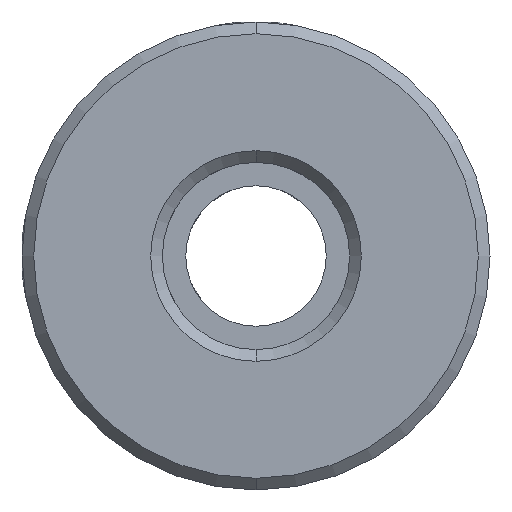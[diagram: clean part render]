
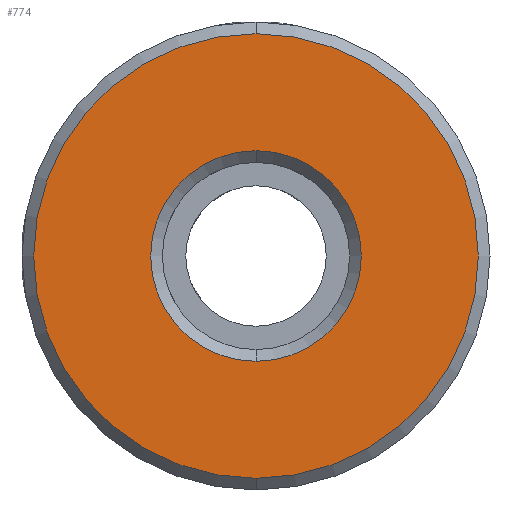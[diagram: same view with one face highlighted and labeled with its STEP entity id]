
A CAD part, front view. The second image highlights one B-rep face of the part: STEP entity #774.
In plain terms, the highlighted planar face has unit normal (0, -1, 0).
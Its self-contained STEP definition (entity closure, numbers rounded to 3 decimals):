
#22 = AXIS2_PLACEMENT_3D ( 'NONE', #2422, #718, #3547 ) ;
#66 = DIRECTION ( 'NONE',  ( 0., 0., 1. ) ) ;
#141 = DIRECTION ( 'NONE',  ( 0., -1., 0. ) ) ;
#193 = EDGE_CURVE ( 'NONE', #2204, #1345, #3329, .T. ) ;
#241 = DIRECTION ( 'NONE',  ( 0., 0., 1. ) ) ;
#268 = EDGE_CURVE ( 'NONE', #1345, #2204, #2973, .T. ) ;
#506 = DIRECTION ( 'NONE',  ( 0., -1., 0. ) ) ;
#718 = DIRECTION ( 'NONE',  ( 0., 1., 0. ) ) ;
#774 = ADVANCED_FACE ( 'NONE', ( #3473, #3175 ), #3438, .F. ) ;
#830 = EDGE_LOOP ( 'NONE', ( #2199, #1107 ) ) ;
#880 = VERTEX_POINT ( 'NONE', #2444 ) ;
#892 = DIRECTION ( 'NONE',  ( 0., 1., 0. ) ) ;
#1107 = ORIENTED_EDGE ( 'NONE', *, *, #193, .T. ) ;
#1287 = DIRECTION ( 'NONE',  ( 0., 0., 1. ) ) ;
#1345 = VERTEX_POINT ( 'NONE', #2082 ) ;
#1467 = CIRCLE ( 'NONE', #3539, 4.5 ) ;
#1760 = CARTESIAN_POINT ( 'NONE',  ( -10.188, -0.277, 0.046 ) ) ;
#1800 = EDGE_CURVE ( 'NONE', #2002, #880, #1467, .T. ) ;
#1889 = DIRECTION ( 'NONE',  ( 0., 1., 0. ) ) ;
#2002 = VERTEX_POINT ( 'NONE', #2698 ) ;
#2038 = CIRCLE ( 'NONE', #22, 4.5 ) ;
#2060 = ORIENTED_EDGE ( 'NONE', *, *, #3474, .T. ) ;
#2082 = CARTESIAN_POINT ( 'NONE',  ( -10.188, -0.277, 9.546 ) ) ;
#2196 = CARTESIAN_POINT ( 'NONE',  ( -10.188, -0.277, 0.046 ) ) ;
#2199 = ORIENTED_EDGE ( 'NONE', *, *, #268, .T. ) ;
#2204 = VERTEX_POINT ( 'NONE', #2880 ) ;
#2228 = CARTESIAN_POINT ( 'NONE',  ( -10.188, -0.277, 0.046 ) ) ;
#2301 = ORIENTED_EDGE ( 'NONE', *, *, #1800, .T. ) ;
#2385 = EDGE_LOOP ( 'NONE', ( #2060, #2301 ) ) ;
#2422 = CARTESIAN_POINT ( 'NONE',  ( -10.188, -0.277, 0.046 ) ) ;
#2444 = CARTESIAN_POINT ( 'NONE',  ( -10.188, -0.277, -4.454 ) ) ;
#2618 = AXIS2_PLACEMENT_3D ( 'NONE', #2196, #506, #2768 ) ;
#2698 = CARTESIAN_POINT ( 'NONE',  ( -10.188, -0.277, 4.546 ) ) ;
#2768 = DIRECTION ( 'NONE',  ( 0., 0., 1. ) ) ;
#2880 = CARTESIAN_POINT ( 'NONE',  ( -10.188, -0.277, -9.454 ) ) ;
#2912 = AXIS2_PLACEMENT_3D ( 'NONE', #3033, #141, #1287 ) ;
#2973 = CIRCLE ( 'NONE', #2912, 9.5 ) ;
#3033 = CARTESIAN_POINT ( 'NONE',  ( -10.188, -0.277, 0.046 ) ) ;
#3175 = FACE_BOUND ( 'NONE', #2385, .T. ) ;
#3329 = CIRCLE ( 'NONE', #2618, 9.5 ) ;
#3438 = PLANE ( 'NONE',  #3598 ) ;
#3473 = FACE_OUTER_BOUND ( 'NONE', #830, .T. ) ;
#3474 = EDGE_CURVE ( 'NONE', #880, #2002, #2038, .T. ) ;
#3539 = AXIS2_PLACEMENT_3D ( 'NONE', #2228, #1889, #241 ) ;
#3547 = DIRECTION ( 'NONE',  ( 0., 0., 1. ) ) ;
#3598 = AXIS2_PLACEMENT_3D ( 'NONE', #1760, #892, #66 ) ;
